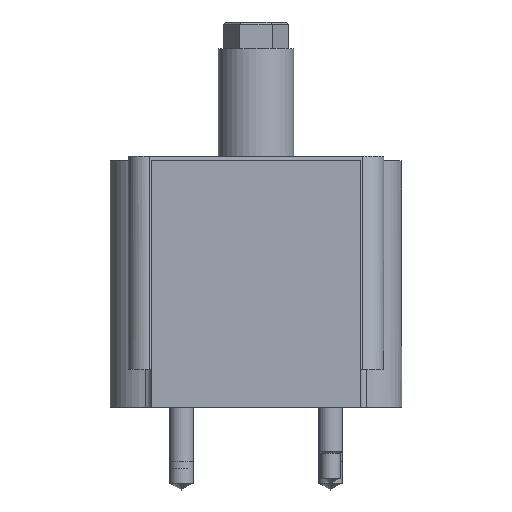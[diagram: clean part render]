
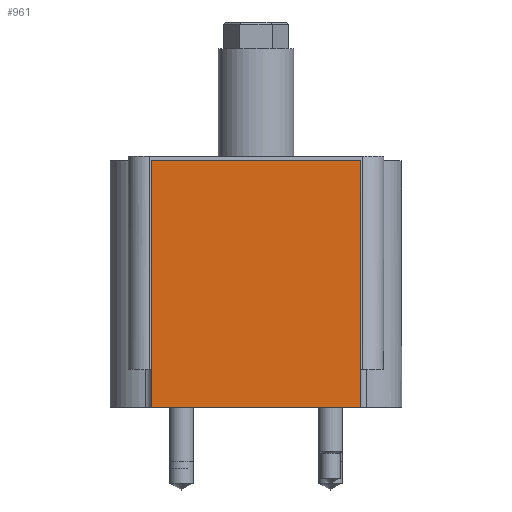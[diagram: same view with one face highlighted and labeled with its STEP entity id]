
A CAD part, left-side view. The second image highlights one B-rep face of the part: STEP entity #961.
In plain terms, the highlighted planar face has unit normal (-1, 0, 0).
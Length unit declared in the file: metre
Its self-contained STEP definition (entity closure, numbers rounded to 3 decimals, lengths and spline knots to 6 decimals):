
#961=ADVANCED_FACE('',(#2033),#2034,.T.);
#2033=FACE_OUTER_BOUND('',#3826,.T.);
#2034=PLANE('',#3827);
#3826=EDGE_LOOP('',(#14018,#14019,#14020,#14021));
#3827=AXIS2_PLACEMENT_3D('',#14022,#14023,#14024);
#14018=ORIENTED_EDGE('',*,*,#15871,.F.);
#14019=ORIENTED_EDGE('',*,*,#15805,.T.);
#14020=ORIENTED_EDGE('',*,*,#15848,.F.);
#14021=ORIENTED_EDGE('',*,*,#15833,.T.);
#14022=CARTESIAN_POINT('',(-0.084201,0.0,0.0));
#14023=DIRECTION('',(-1.0,0.0,0.0));
#14024=DIRECTION('',(0.0,0.0,1.0));
#15805=EDGE_CURVE('',#16684,#16682,#16685,.T.);
#15833=EDGE_CURVE('',#16732,#16730,#16733,.T.);
#15848=EDGE_CURVE('',#16732,#16682,#16753,.F.);
#15871=EDGE_CURVE('',#16684,#16730,#16781,.F.);
#16682=VERTEX_POINT('',#17907);
#16684=VERTEX_POINT('',#17910);
#16685=LINE('',#17911,#17912);
#16730=VERTEX_POINT('',#17964);
#16732=VERTEX_POINT('',#17967);
#16733=LINE('',#17968,#17969);
#16753=LINE('',#17996,#17997);
#16781=LINE('',#18037,#18038);
#17907=CARTESIAN_POINT('',(-0.084201,-0.034988,0.0));
#17910=CARTESIAN_POINT('',(-0.084201,0.034988,0.0));
#17911=CARTESIAN_POINT('',(-0.084201,0.0,0.0));
#17912=VECTOR('',#21502,1.0);
#17964=CARTESIAN_POINT('',(-0.084201,0.034988,0.08255));
#17967=CARTESIAN_POINT('',(-0.084201,-0.034988,0.08255));
#17968=CARTESIAN_POINT('',(-0.084201,0.0,0.08255));
#17969=VECTOR('',#21550,1.0);
#17996=CARTESIAN_POINT('',(-0.084201,-0.034988,0.0));
#17997=VECTOR('',#21567,1.0);
#18037=CARTESIAN_POINT('',(-0.084201,0.034988,0.0));
#18038=VECTOR('',#21586,1.0);
#21502=DIRECTION('',(-0.0,-1.0,-0.0));
#21550=DIRECTION('',(0.0,1.0,0.0));
#21567=DIRECTION('',(0.0,0.0,1.0));
#21586=DIRECTION('',(0.0,0.0,-1.0));
